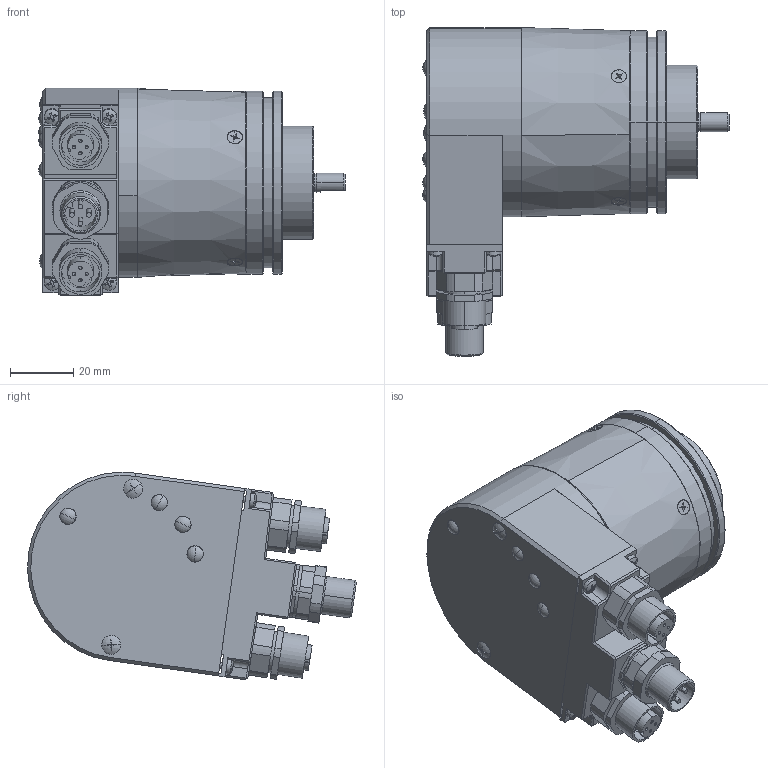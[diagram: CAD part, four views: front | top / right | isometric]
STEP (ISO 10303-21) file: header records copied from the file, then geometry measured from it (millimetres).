
FILE_DESCRIPTION (( 'STEP AP214' ), '1' );
FILE_NAME ('5868.11B2.XXXX.STEP', '2009-01-09T06:55:28', ( 'admin' ), ( 'Fritz Kübler GmbH' ), 'SwSTEP 2.0', 'SolidWorks 2008', '' );
FILE_SCHEMA (( 'AUTOMOTIVE_DESIGN' ));
Length unit declared in the file: millimetre
Products named in the file (1): 5868.11B2.XXXX
Bounding box: 97.15 x 104.23 x 65.79 mm (x, y, z)
Volume: 113126 mm3; surface area: 79445.8 mm2
Topology: 25 solids, 27 shells, 2457 faces, 6581 edges, 4234 vertices
Faces by surface type: cylinder 1021, plane 948, cone 324, torus 107, sphere 40, bspline 17
Entity records: 108455 total; most frequent: CARTESIAN_POINT 19222, DIRECTION 13420, ORIENTED_EDGE 12986, EDGE_CURVE 6493, AXIS2_PLACEMENT_3D 5312, VERTEX_POINT 4204, CIRCLE 2871, VECTOR 2796
